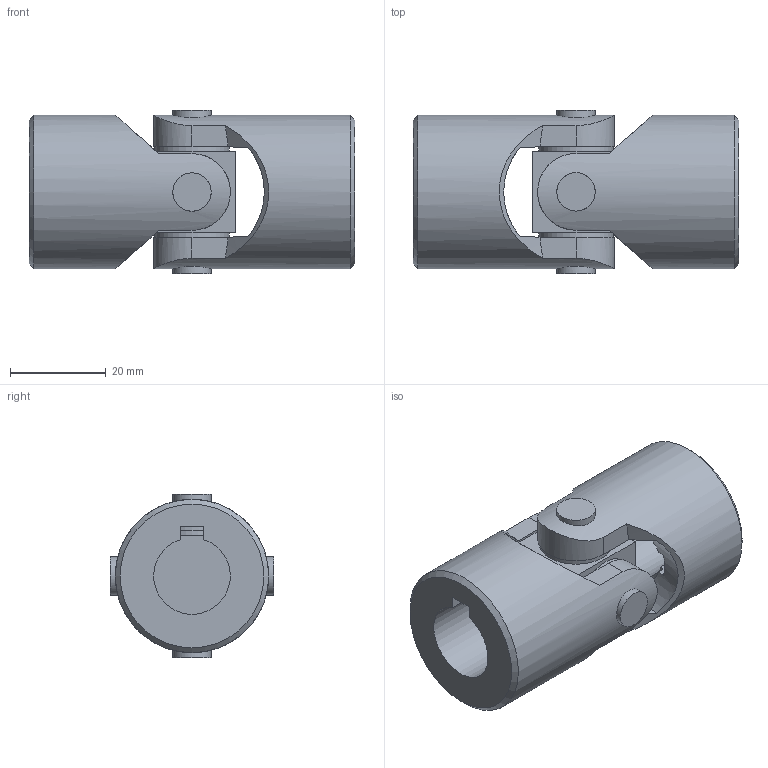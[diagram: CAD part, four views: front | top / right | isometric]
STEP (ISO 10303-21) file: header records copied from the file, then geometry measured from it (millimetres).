
FILE_DESCRIPTION(/* description */ (''),/* implementation_level */ '2;1');
FILE_NAME(/* name */ '\\SRV2016\societa\Stefano\Disegni 3D\0Catalogo 3D\13Singoli X\Ø32_1X_SX0S162C.stp',/* time_stamp */ '2023-05-12T15:54:21+02:00',/* author */ ('acquisti'),/* organization */ (''),/* preprocessor_version */ 'ST-DEVELOPER v15.6',/* originating_system */ 'Autodesk Inventor 2015',/* authorisation */ '');
FILE_SCHEMA (('AUTOMOTIVE_DESIGN { 1 0 10303 214 3 1 1 }'));
Length unit declared in the file: millimetre
Products named in the file (3): 1XA SFE; 1X MOC; Ø32_1X_SX0S1600
Assembly tree (3 placements, depth 2):
  Ø32_1X_SX0S1600
    1XA SFE
    1X MOC  x2
Bounding box: 68 x 34.1 x 34.1 mm (x, y, z)
Volume: 37416.3 mm3; surface area: 13892.5 mm2
Topology: 3 solids, 3 shells, 70 faces, 182 edges, 124 vertices
Faces by surface type: plane 38, cylinder 18, cone 12, torus 2
Full cylindrical faces by diameter (mm): 8 x4, 15.5 x4, 32 x2
Entity records: 1427 total; most frequent: CARTESIAN_POINT 448, DIRECTION 187, ORIENTED_EDGE 182, EDGE_CURVE 91, AXIS2_PLACEMENT_3D 77, VERTEX_POINT 67, EDGE_LOOP 58, FACE_OUTER_BOUND 42
